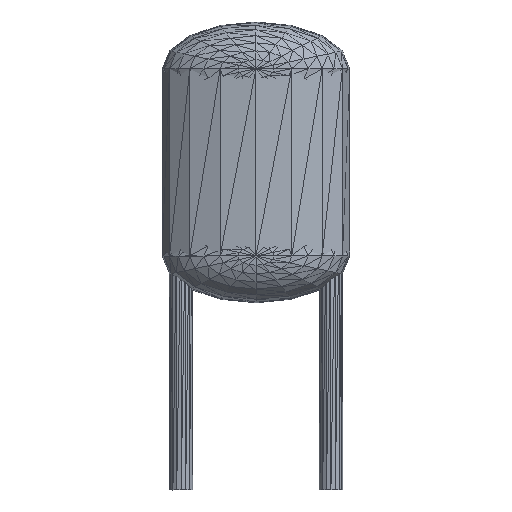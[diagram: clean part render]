
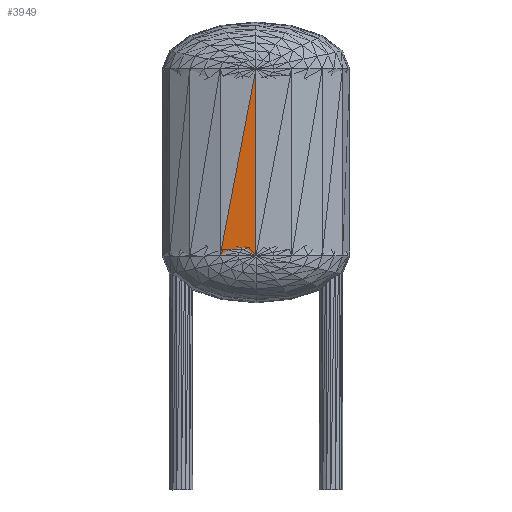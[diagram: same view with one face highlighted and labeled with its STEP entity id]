
A CAD part, front view. The second image highlights one B-rep face of the part: STEP entity #3949.
In plain terms, the highlighted planar face has unit normal (-0.099, -0.995, 0).
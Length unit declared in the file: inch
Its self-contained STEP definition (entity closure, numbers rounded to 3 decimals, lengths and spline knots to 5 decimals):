
#2705=CARTESIAN_POINT('',(-0.00008,-0.05004,0.15002));
#2706=VERTEX_POINT('',#2705);
#3035=CARTESIAN_POINT('',(-0.03835,-0.04622,0.15002));
#3036=VERTEX_POINT('',#3035);
#3059=CARTESIAN_POINT('',(-0.00008,-0.05004,0.15002));
#3060=DIRECTION('',(-0.995,0.099,0.));
#3061=VECTOR('',#3060,0.03846);
#3062=LINE('',#3059,#3061);
#3063=EDGE_CURVE('',#2706,#3036,#3062,.T.);
#3083=CARTESIAN_POINT('',(-0.00005,-0.04997,0.35002));
#3084=VERTEX_POINT('',#3083);
#3450=CARTESIAN_POINT('',(-0.00008,-0.05004,0.15002));
#3451=DIRECTION('',(0.,0.,1.));
#3452=VECTOR('',#3451,0.2);
#3453=LINE('',#3450,#3452);
#3454=EDGE_CURVE('',#2706,#3084,#3453,.T.);
#3928=CARTESIAN_POINT('',(-0.03835,-0.04622,0.15002));
#3929=DIRECTION('',(0.188,-0.018,0.982));
#3930=VECTOR('',#3929,0.20366);
#3931=LINE('',#3928,#3930);
#3932=EDGE_CURVE('',#3036,#3084,#3931,.T.);
#3939=CARTESIAN_POINT('',(-0.00005,-0.04997,0.35002));
#3940=DIRECTION('',(-0.099,-0.995,0.));
#3941=DIRECTION('',(0.995,-0.099,0.));
#3942=AXIS2_PLACEMENT_3D('',#3939,#3940,#3941);
#3943=PLANE('',#3942);
#3944=ORIENTED_EDGE('',*,*,#3932,.F.);
#3945=ORIENTED_EDGE('',*,*,#3063,.F.);
#3946=ORIENTED_EDGE('',*,*,#3454,.T.);
#3947=EDGE_LOOP('',(#3944,#3945,#3946));
#3948=FACE_BOUND('',#3947,.T.);
#3949=ADVANCED_FACE('',(#3948),#3943,.T.);
